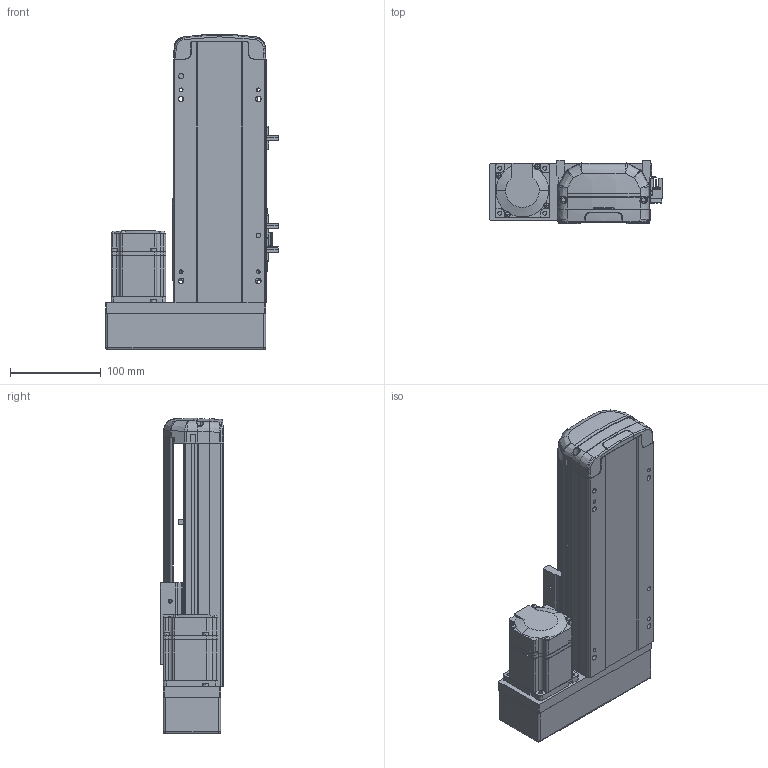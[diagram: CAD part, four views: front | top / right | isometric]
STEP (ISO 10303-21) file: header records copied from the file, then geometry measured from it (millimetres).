
FILE_DESCRIPTION (( 'STEP AP214' ), '1' );
FILE_NAME ('RTH10-XX-100-L-M20-C4.STEP', '2025-10-25T05:05:48', ( 'Microsoft' ), ( 'Microsoft' ), 'SwSTEP 2.0', 'SolidWorks 2018', '' );
FILE_SCHEMA (( 'AUTOMOTIVE_DESIGN' ));
Length unit declared in the file: millimetre
Products named in the file (10): N_OMRON EE-SX672 传感器^RTH10-XX-XX-L-M20-C4; N_RTH12-L-008萇儂啣^RTH10-XX-XX-L-M20-C4; N_RTH12-L-018-裔赽^RTH10-XX-XX-L-M20-C4; RTH10-XX-100-L-M20-C4; N_RTH13-L-012覜茼え俋离^RTH10-XX-XX-L-M20-C4; N_RTH12-M-007P-奻裔^RTH10-XX-XX-L-M20-C4; N_RTH12-M-011P-臏倰第菁釱^RTH10-XX-XX-L-M20-C4; N_RTH12-GY-001P^RTH10-XX-XX-L-M20-C4; N_200W-1^RTH10-XX-XX-L-M20-C4; N_RTH12-GY-004-賑釱^RTH10-XX-XX-L-M20-C4
Assembly tree (11 placements, depth 2):
  RTH10-XX-100-L-M20-C4
    N_RTH12-M-011P-臏倰第菁釱^RTH10-XX-XX-L-M20-C4
    N_RTH13-L-012覜茼え俋离^RTH10-XX-XX-L-M20-C4
    N_OMRON EE-SX672 传感器^RTH10-XX-XX-L-M20-C4  x3
    N_200W-1^RTH10-XX-XX-L-M20-C4
    N_RTH12-M-007P-奻裔^RTH10-XX-XX-L-M20-C4
    N_RTH12-L-008萇儂啣^RTH10-XX-XX-L-M20-C4
    N_RTH12-L-018-裔赽^RTH10-XX-XX-L-M20-C4
    N_RTH12-GY-004-賑釱^RTH10-XX-XX-L-M20-C4
    N_RTH12-GY-001P^RTH10-XX-XX-L-M20-C4
Bounding box: 190 x 70 x 347.31 mm (x, y, z)
Volume: 2047973.9 mm3; surface area: 325550.1 mm2
Topology: 10 solids, 12 shells, 1916 faces, 5311 edges, 3485 vertices
Faces by surface type: plane 971, bspline 472, cylinder 438, cone 29, sphere 4, torus 2
Entity records: 57001 total; most frequent: CARTESIAN_POINT 22717, ORIENTED_EDGE 7694, DIRECTION 5885, EDGE_CURVE 3853, VERTEX_POINT 2529, LINE 2091, VECTOR 2091, AXIS2_PLACEMENT_3D 1897
